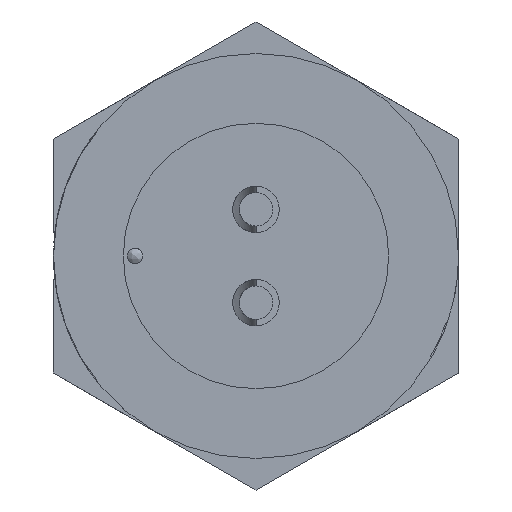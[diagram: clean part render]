
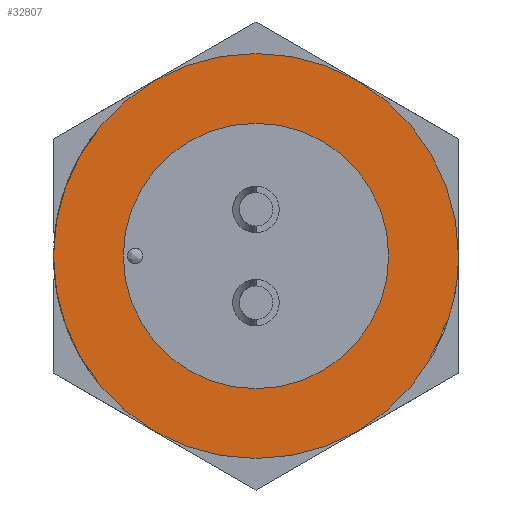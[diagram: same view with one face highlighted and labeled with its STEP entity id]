
A CAD part, left-side view. The second image highlights one B-rep face of the part: STEP entity #32807.
In plain terms, the highlighted planar face has unit normal (-1, 0, 0).
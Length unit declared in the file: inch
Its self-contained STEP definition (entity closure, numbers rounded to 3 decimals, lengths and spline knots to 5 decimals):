
#677 = ORIENTED_EDGE ( 'NONE', *, *, #12402, .T. ) ;
#2137 = CIRCLE ( 'NONE', #28456, 0.406 ) ;
#2972 = VECTOR ( 'NONE', #4995, 39.37008 ) ;
#3413 = ORIENTED_EDGE ( 'NONE', *, *, #6162, .T. ) ;
#3799 = PLANE ( 'NONE',  #7391 ) ;
#4844 = CIRCLE ( 'NONE', #32272, 0.266 ) ;
#4995 = DIRECTION ( 'NONE',  ( 0., -1., 0. ) ) ;
#5036 = CARTESIAN_POINT ( 'NONE',  ( -0.078, 0., -0.266 ) ) ;
#5861 = ORIENTED_EDGE ( 'NONE', *, *, #27627, .T. ) ;
#6100 = CIRCLE ( 'NONE', #28243, 0.4035 ) ;
#6162 = EDGE_CURVE ( 'NONE', #23078, #26113, #6100, .T. ) ;
#7277 = CARTESIAN_POINT ( 'NONE',  ( -0.078, 0.406, 0. ) ) ;
#7391 = AXIS2_PLACEMENT_3D ( 'NONE', #15934, #36648, #18930 ) ;
#7652 = DIRECTION ( 'NONE',  ( -1., 0., 0. ) ) ;
#7689 = CARTESIAN_POINT ( 'NONE',  ( -0.078, 0., -0.133 ) ) ;
#7736 = CARTESIAN_POINT ( 'NONE',  ( -0.078, 0., 0.266 ) ) ;
#7772 = EDGE_CURVE ( 'NONE', #19634, #23078, #23158, .T. ) ;
#9842 = AXIS2_PLACEMENT_3D ( 'NONE', #14523, #35182, #17505 ) ;
#9899 = VERTEX_POINT ( 'NONE', #5036 ) ;
#11217 = EDGE_CURVE ( 'NONE', #20265, #9899, #4844, .T. ) ;
#11810 = EDGE_CURVE ( 'NONE', #33150, #14304, #2137, .T. ) ;
#12402 = EDGE_CURVE ( 'NONE', #9899, #20265, #13372, .T. ) ;
#13372 = CIRCLE ( 'NONE', #16587, 0.266 ) ;
#13939 = DIRECTION ( 'NONE',  ( 0., 1., 0. ) ) ;
#13969 = DIRECTION ( 'NONE',  ( -1., 0., 0. ) ) ;
#14010 = CARTESIAN_POINT ( 'NONE',  ( -0.078, 0., 0. ) ) ;
#14304 = VERTEX_POINT ( 'NONE', #7277 ) ;
#14523 = CARTESIAN_POINT ( 'NONE',  ( -0.078, 0., 0. ) ) ;
#14725 = ORIENTED_EDGE ( 'NONE', *, *, #21886, .T. ) ;
#14963 = EDGE_CURVE ( 'NONE', #30444, #33150, #18492, .T. ) ;
#15382 = ORIENTED_EDGE ( 'NONE', *, *, #7772, .T. ) ;
#15934 = CARTESIAN_POINT ( 'NONE',  ( -0.078, 0., 0. ) ) ;
#16587 = AXIS2_PLACEMENT_3D ( 'NONE', #32457, #32450, #32410 ) ;
#16750 = ORIENTED_EDGE ( 'NONE', *, *, #11810, .T. ) ;
#17505 = DIRECTION ( 'NONE',  ( 0., 1., 0. ) ) ;
#17546 = EDGE_LOOP ( 'NONE', ( #24398, #16750, #14725, #15382, #3413, #5861 ) ) ;
#18492 = CIRCLE ( 'NONE', #9842, 0.406 ) ;
#18930 = DIRECTION ( 'NONE',  ( 0., 0., 1. ) ) ;
#19522 = CARTESIAN_POINT ( 'NONE',  ( -0.078, -0.406, 0. ) ) ;
#19634 = VERTEX_POINT ( 'NONE', #38521 ) ;
#20265 = VERTEX_POINT ( 'NONE', #7736 ) ;
#20510 = FACE_OUTER_BOUND ( 'NONE', #17546, .T. ) ;
#21886 = EDGE_CURVE ( 'NONE', #14304, #19634, #37198, .T. ) ;
#22877 = AXIS2_PLACEMENT_3D ( 'NONE', #25490, #7652, #28441 ) ;
#23078 = VERTEX_POINT ( 'NONE', #34545 ) ;
#23101 = VECTOR ( 'NONE', #27918, 39.37008 ) ;
#23158 = LINE ( 'NONE', #27908, #23101 ) ;
#24362 = CARTESIAN_POINT ( 'NONE',  ( -0.078, -0.3836, -0.133 ) ) ;
#24395 = CARTESIAN_POINT ( 'NONE',  ( -0.078, -0.38095, -0.133 ) ) ;
#24398 = ORIENTED_EDGE ( 'NONE', *, *, #14963, .T. ) ;
#25490 = CARTESIAN_POINT ( 'NONE',  ( -0.078, 0., 0. ) ) ;
#26113 = VERTEX_POINT ( 'NONE', #24395 ) ;
#26205 = EDGE_LOOP ( 'NONE', ( #32729, #677 ) ) ;
#27627 = EDGE_CURVE ( 'NONE', #26113, #30444, #33552, .T. ) ;
#27908 = CARTESIAN_POINT ( 'NONE',  ( -0.078, -0.35161, -0.203 ) ) ;
#27918 = DIRECTION ( 'NONE',  ( 0., 0.866, 0.5 ) ) ;
#28243 = AXIS2_PLACEMENT_3D ( 'NONE', #30749, #30714, #30668 ) ;
#28441 = DIRECTION ( 'NONE',  ( 0., 1., 0. ) ) ;
#28456 = AXIS2_PLACEMENT_3D ( 'NONE', #14010, #13969, #13939 ) ;
#28897 = DIRECTION ( 'NONE',  ( 0., 0., 1. ) ) ;
#28926 = DIRECTION ( 'NONE',  ( 1., 0., 0. ) ) ;
#28973 = CARTESIAN_POINT ( 'NONE',  ( -0.078, 0., 0. ) ) ;
#30444 = VERTEX_POINT ( 'NONE', #24362 ) ;
#30668 = DIRECTION ( 'NONE',  ( 0., 1., 0. ) ) ;
#30714 = DIRECTION ( 'NONE',  ( -1., 0., 0. ) ) ;
#30749 = CARTESIAN_POINT ( 'NONE',  ( -0.078, 0., 0. ) ) ;
#32272 = AXIS2_PLACEMENT_3D ( 'NONE', #28973, #28926, #28897 ) ;
#32410 = DIRECTION ( 'NONE',  ( 0., 0., 1. ) ) ;
#32450 = DIRECTION ( 'NONE',  ( 1., 0., 0. ) ) ;
#32457 = CARTESIAN_POINT ( 'NONE',  ( -0.078, 0., 0. ) ) ;
#32729 = ORIENTED_EDGE ( 'NONE', *, *, #11217, .T. ) ;
#32807 = ADVANCED_FACE ( 'NONE', ( #36206, #20510 ), #3799, .T. ) ;
#33150 = VERTEX_POINT ( 'NONE', #19522 ) ;
#33552 = LINE ( 'NONE', #7689, #2972 ) ;
#34545 = CARTESIAN_POINT ( 'NONE',  ( -0.078, -0.34944, -0.20175 ) ) ;
#35182 = DIRECTION ( 'NONE',  ( -1., 0., 0. ) ) ;
#36206 = FACE_BOUND ( 'NONE', #26205, .T. ) ;
#36648 = DIRECTION ( 'NONE',  ( -1., 0., 0. ) ) ;
#37198 = CIRCLE ( 'NONE', #22877, 0.406 ) ;
#38521 = CARTESIAN_POINT ( 'NONE',  ( -0.078, -0.35161, -0.203 ) ) ;
